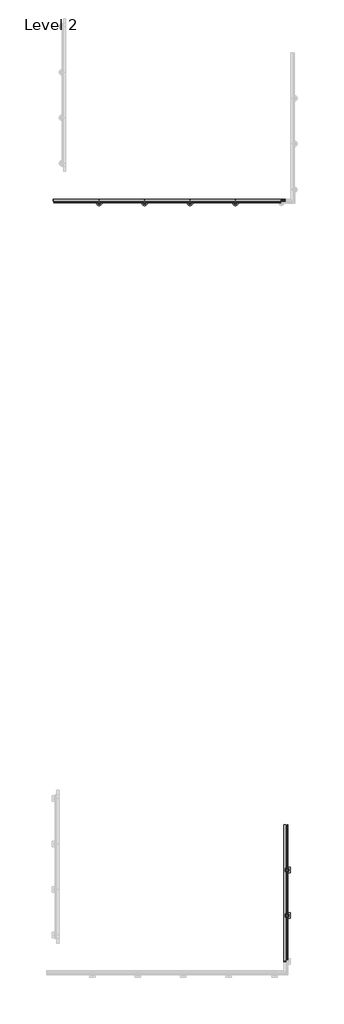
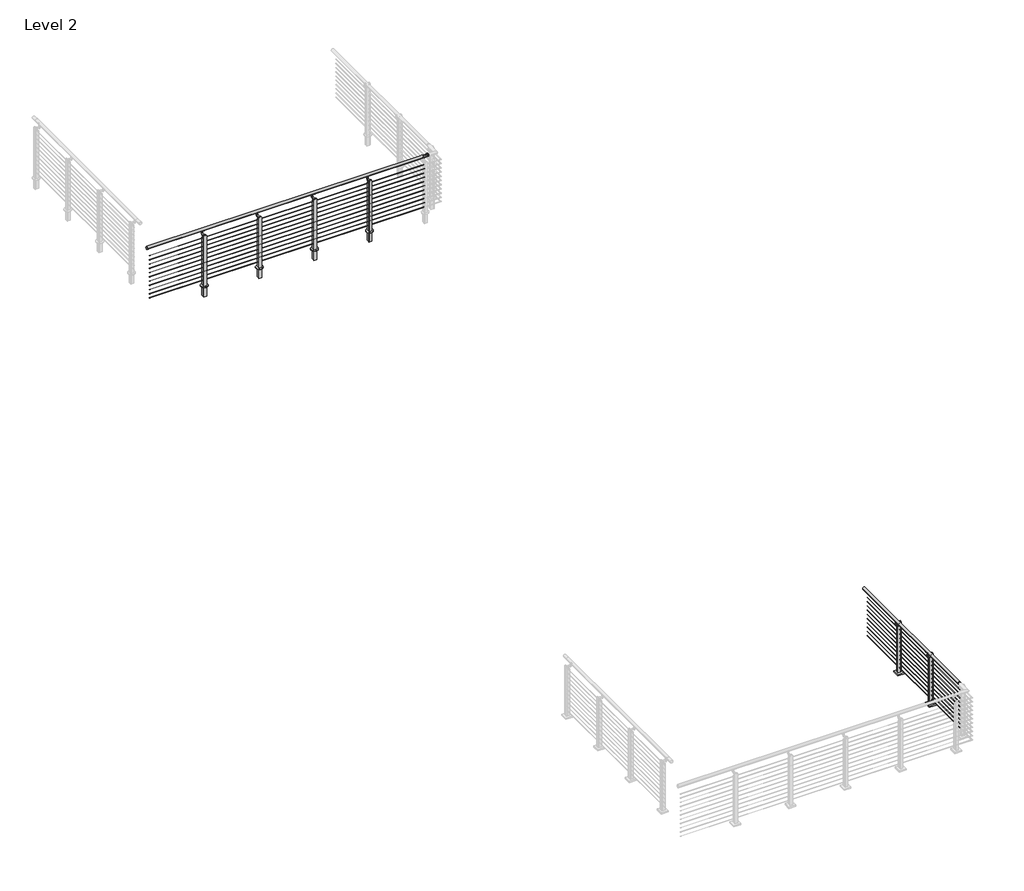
# One storey, part 7 of 12: 2 railings.
"""IFC4 building model written with IfcOpenShell, lengths in millimetres."""

from ifc_helpers import new_model, si_unit, point, frame, frame_2d, origin, place, context, project, spatial, polyline, circle_curve, trimmed, segment, composite_curve, outline, extrude, element, save
from ifc_brep_helpers import plane_surface, cylinder_surface, advanced_brep

model = new_model("IFC4")

# Units and contexts
model_context = context("Model", 3, world=origin())
ifc_project = project(units=[si_unit("LENGTHUNIT", "METRE", prefix="MILLI")], contexts=[model_context])

# Site, building, storey
site = spatial("IfcSite", under=ifc_project)
building = spatial("IfcBuilding", under=site)
storey = spatial("IfcBuildingStorey", under=building, Name="Level 2", Elevation=3048.0)

# Railings
placement = place(None, origin())
element("IfcRailing", 1, ObjectType="VIVA-TEE-Cable-Core Mount-Straight", at=placement, inside=storey, context=model_context, shape_type="SolidModel", body=[
    advanced_brep(
    [(-9121.1313409, -18186.2176165, 4102.1), (-9121.1313409, -18237.0176165, 4102.1), (-4041.1313409, -18237.0176165, 4102.1), (-4041.1313409, -18186.2176165, 4102.1), (-9130.8605344, -18237.0176165, 4102.1), (-9130.8605344, -18186.2176165, 4102.1), (-3939.5313409, -18237.0176165, 4102.1), (-3939.5313409, -18186.2176165, 4102.1)],
    [
        (0, 1, circle_curve(frame((-9121.1313409, -18211.6176165, 4102.1), z_axis=(1.0, 0.0, 0.0), x_axis=(0.0, 1.0, 0.0)), 25.4)),
        (1, 2),
        (2, 3, circle_curve(frame((-4041.1313409, -18211.6176165, 4102.1), z_axis=(-1.0, 0.0, 0.0), x_axis=(0.0, 1.0, 0.0)), 25.4)),
        (3, 0),
        (1, 0, circle_curve(frame((-9121.1313409, -18211.6176165, 4102.1), z_axis=(1.0, 0.0, 0.0), x_axis=(0.0, 1.0, 0.0)), 25.4)),
        (3, 2, circle_curve(frame((-4041.1313409, -18211.6176165, 4102.1), z_axis=(-1.0, 0.0, 0.0), x_axis=(0.0, 1.0, 0.0)), 25.4)),
        (4, 5, circle_curve(frame((-9130.8605344, -18211.6176165, 4102.1), z_axis=(-1.0, 0.0, 0.0), x_axis=(0.0, 1.0, 0.0)), 25.4)),
        (5, 4, circle_curve(frame((-9130.8605344, -18211.6176165, 4102.1), z_axis=(-1.0, 0.0, 0.0), x_axis=(0.0, 1.0, 0.0)), 25.4)),
        (4, 1),
        (0, 5),
        (6, 7, circle_curve(frame((-3939.5313409, -18211.6176165, 4102.1), z_axis=(1.0, 0.0, 0.0), x_axis=(0.0, 1.0, 0.0)), 25.4)),
        (7, 6, circle_curve(frame((-3939.5313409, -18211.6176165, 4102.1), z_axis=(1.0, 0.0, 0.0), x_axis=(0.0, 1.0, 0.0)), 25.4)),
        (2, 6),
        (7, 3),
    ],
    [
        cylinder_surface(frame((-9121.1313409, -18211.6176165, 4102.1), z_axis=(-1.0, 0.0, 0.0), x_axis=(0.0, 1.0, 0.0)), 25.4),
        plane_surface(frame((-9130.8605344, -18211.6176165, 4127.5), z_axis=(-1.0, 0.0, 0.0), x_axis=(0.0, 1.0, 0.0))),
        cylinder_surface(frame((-9130.8605344, -18211.6176165, 4102.1), z_axis=(-1.0, 0.0, 0.0), x_axis=(0.0, 1.0, 0.0)), 25.4),
        plane_surface(frame((-3939.5313409, -18211.6176165, 4127.5), z_axis=(1.0, 0.0, 0.0), x_axis=(0.0, 1.0, 0.0))),
        cylinder_surface(frame((-4041.1313409, -18211.6176165, 4102.1), z_axis=(-1.0, 0.0, 0.0), x_axis=(0.0, 1.0, 0.0)), 25.4),
    ],
    [
        (0, [[1, 2, 3, 4]]),
        (0, [[5, -4, 6, -2]]),
        (1, [[7, 8]]),
        (2, [[-7, 9, -1, 10]]),
        (2, [[-8, -10, -5, -9]]),
        (3, [[11, 12]]),
        (4, [[-3, 13, -12, 14]]),
        (4, [[-6, -14, -11, -13]]),
    ],
),
    extrude(outline(composite_curve([segment(trimmed(circle_curve(frame_2d((-18271.9426165, 3985.4124)), 2.3876), [point((-18269.5550165, 3985.4124))], [point((-18274.3302165, 3985.4124))], False, "CARTESIAN"), True, "CONTINUOUS"), segment(trimmed(circle_curve(frame_2d((-18271.9426165, 3985.4124)), 2.3876), [point((-18274.3302165, 3985.4124))], [point((-18269.5550165, 3985.4124))], False, "CARTESIAN"), True, "CONTINUOUS")], self_intersect=False)), frame((-9121.1313409, 0.0, 0.0), z_axis=(1.0, 0.0, 0.0), x_axis=(0.0, 1.0, 0.0)), (0.0, 0.0, 1.0), 5080.0),
    extrude(outline(composite_curve([segment(trimmed(circle_curve(frame_2d((-18271.9426165, 3902.8624)), 2.3876), [point((-18269.5550165, 3902.8624))], [point((-18274.3302165, 3902.8624))], False, "CARTESIAN"), True, "CONTINUOUS"), segment(trimmed(circle_curve(frame_2d((-18271.9426165, 3902.8624)), 2.3876), [point((-18274.3302165, 3902.8624))], [point((-18269.5550165, 3902.8624))], False, "CARTESIAN"), True, "CONTINUOUS")], self_intersect=False)), frame((-9121.1313409, 0.0, 0.0), z_axis=(1.0, 0.0, 0.0), x_axis=(0.0, 1.0, 0.0)), (0.0, 0.0, 1.0), 5080.0),
    extrude(outline(composite_curve([segment(trimmed(circle_curve(frame_2d((-18271.9426165, 3820.3124)), 2.3876), [point((-18269.5550165, 3820.3124))], [point((-18274.3302165, 3820.3124))], False, "CARTESIAN"), True, "CONTINUOUS"), segment(trimmed(circle_curve(frame_2d((-18271.9426165, 3820.3124)), 2.3876), [point((-18274.3302165, 3820.3124))], [point((-18269.5550165, 3820.3124))], False, "CARTESIAN"), True, "CONTINUOUS")], self_intersect=False)), frame((-9121.1313409, 0.0, 0.0), z_axis=(1.0, 0.0, 0.0), x_axis=(0.0, 1.0, 0.0)), (0.0, 0.0, 1.0), 5080.0),
    extrude(outline(composite_curve([segment(trimmed(circle_curve(frame_2d((-18271.9426165, 3737.7624)), 2.3876), [point((-18269.5550165, 3737.7624))], [point((-18274.3302165, 3737.7624))], False, "CARTESIAN"), True, "CONTINUOUS"), segment(trimmed(circle_curve(frame_2d((-18271.9426165, 3737.7624)), 2.3876), [point((-18274.3302165, 3737.7624))], [point((-18269.5550165, 3737.7624))], False, "CARTESIAN"), True, "CONTINUOUS")], self_intersect=False)), frame((-9121.1313409, 0.0, 0.0), z_axis=(1.0, 0.0, 0.0), x_axis=(0.0, 1.0, 0.0)), (0.0, 0.0, 1.0), 5080.0),
    extrude(outline(composite_curve([segment(trimmed(circle_curve(frame_2d((-18271.9426165, 3655.2124)), 2.3876), [point((-18269.5550165, 3655.2124))], [point((-18274.3302165, 3655.2124))], False, "CARTESIAN"), True, "CONTINUOUS"), segment(trimmed(circle_curve(frame_2d((-18271.9426165, 3655.2124)), 2.3876), [point((-18274.3302165, 3655.2124))], [point((-18269.5550165, 3655.2124))], False, "CARTESIAN"), True, "CONTINUOUS")], self_intersect=False)), frame((-9121.1313409, 0.0, 0.0), z_axis=(1.0, 0.0, 0.0), x_axis=(0.0, 1.0, 0.0)), (0.0, 0.0, 1.0), 5080.0),
    extrude(outline(composite_curve([segment(trimmed(circle_curve(frame_2d((-18271.9426165, 3572.6624)), 2.3876), [point((-18269.5550165, 3572.6624))], [point((-18274.3302165, 3572.6624))], False, "CARTESIAN"), True, "CONTINUOUS"), segment(trimmed(circle_curve(frame_2d((-18271.9426165, 3572.6624)), 2.3876), [point((-18274.3302165, 3572.6624))], [point((-18269.5550165, 3572.6624))], False, "CARTESIAN"), True, "CONTINUOUS")], self_intersect=False)), frame((-9121.1313409, 0.0, 0.0), z_axis=(1.0, 0.0, 0.0), x_axis=(0.0, 1.0, 0.0)), (0.0, 0.0, 1.0), 5080.0),
    extrude(outline(composite_curve([segment(trimmed(circle_curve(frame_2d((-18271.9426165, 3490.1124)), 2.3876), [point((-18269.5550165, 3490.1124))], [point((-18274.3302165, 3490.1124))], False, "CARTESIAN"), True, "CONTINUOUS"), segment(trimmed(circle_curve(frame_2d((-18271.9426165, 3490.1124)), 2.3876), [point((-18274.3302165, 3490.1124))], [point((-18269.5550165, 3490.1124))], False, "CARTESIAN"), True, "CONTINUOUS")], self_intersect=False)), frame((-9121.1313409, 0.0, 0.0), z_axis=(1.0, 0.0, 0.0), x_axis=(0.0, 1.0, 0.0)), (0.0, 0.0, 1.0), 5080.0),
    extrude(outline(composite_curve([segment(trimmed(circle_curve(frame_2d((-18271.9426165, 3407.5624)), 2.3876), [point((-18269.5550165, 3407.5624))], [point((-18274.3302165, 3407.5624))], False, "CARTESIAN"), True, "CONTINUOUS"), segment(trimmed(circle_curve(frame_2d((-18271.9426165, 3407.5624)), 2.3876), [point((-18274.3302165, 3407.5624))], [point((-18269.5550165, 3407.5624))], False, "CARTESIAN"), True, "CONTINUOUS")], self_intersect=False)), frame((-9121.1313409, 0.0, 0.0), z_axis=(1.0, 0.0, 0.0), x_axis=(0.0, 1.0, 0.0)), (0.0, 0.0, 1.0), 5080.0),
    extrude(outline(composite_curve([segment(trimmed(circle_curve(frame_2d((-18271.9426165, 3325.0124)), 2.3876), [point((-18269.5550165, 3325.0124))], [point((-18274.3302165, 3325.0124))], False, "CARTESIAN"), True, "CONTINUOUS"), segment(trimmed(circle_curve(frame_2d((-18271.9426165, 3325.0124)), 2.3876), [point((-18274.3302165, 3325.0124))], [point((-18269.5550165, 3325.0124))], False, "CARTESIAN"), True, "CONTINUOUS")], self_intersect=False)), frame((-9121.1313409, 0.0, 0.0), z_axis=(1.0, 0.0, 0.0), x_axis=(0.0, 1.0, 0.0)), (0.0, 0.0, 1.0), 5080.0),
    extrude(outline(composite_curve([segment(trimmed(circle_curve(frame_2d((-18271.9426165, 3242.4624)), 2.3876), [point((-18269.5550165, 3242.4624))], [point((-18274.3302165, 3242.4624))], False, "CARTESIAN"), True, "CONTINUOUS"), segment(trimmed(circle_curve(frame_2d((-18271.9426165, 3242.4624)), 2.3876), [point((-18274.3302165, 3242.4624))], [point((-18269.5550165, 3242.4624))], False, "CARTESIAN"), True, "CONTINUOUS")], self_intersect=False)), frame((-9121.1313409, 0.0, 0.0), z_axis=(1.0, 0.0, 0.0), x_axis=(0.0, 1.0, 0.0)), (0.0, 0.0, 1.0), 5080.0),
    extrude(outline(composite_curve([segment(trimmed(circle_curve(frame_2d((-18271.9426165, 3159.9124)), 2.3876), [point((-18269.5550165, 3159.9124))], [point((-18274.3302165, 3159.9124))], False, "CARTESIAN"), True, "CONTINUOUS"), segment(trimmed(circle_curve(frame_2d((-18271.9426165, 3159.9124)), 2.3876), [point((-18274.3302165, 3159.9124))], [point((-18269.5550165, 3159.9124))], False, "CARTESIAN"), True, "CONTINUOUS")], self_intersect=False)), frame((-9121.1313409, 0.0, 0.0), z_axis=(1.0, 0.0, 0.0), x_axis=(0.0, 1.0, 0.0)), (0.0, 0.0, 1.0), 5080.0),
    extrude(outline(composite_curve([segment(trimmed(circle_curve(frame_2d((0.0, 7.0)), 7.0), [point((0.0, 14.0))], [point((0.0, 0.0))], False, "CARTESIAN"), True, "CONTINUOUS"), segment(trimmed(circle_curve(frame_2d((0.0, 7.0)), 7.0), [point((0.0, 0.0))], [point((0.0, 14.0))], False, "CARTESIAN"), True, "CONTINUOUS")], self_intersect=False)), frame((-5057.057631, -18218.3274703, 3997.1832524), z_axis=(0.004253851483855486, 0.0, 0.9999909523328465), x_axis=(0.9999909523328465, 0.0, -0.004253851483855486)), (0.0, 0.0, 1.0), 75.97),
    extrude(outline(composite_curve([segment(trimmed(circle_curve(frame_2d((-18211.1860663, 4095.2025651)), 19.05), [point((-18224.7156545, 4081.7916463))], [point((-18197.6564781, 4081.7916463))], True, "CARTESIAN"), True, "CONTINUOUS"), segment(polyline([(-18197.6564781, 4081.7916463), (-18196.6300885, 4080.7742593)]), True, "CONTINUOUS"), segment(trimmed(circle_curve(frame_2d((-18197.6860663, 4079.7089374)), 1.5), [point((-18196.6300885, 4080.7742593))], [point((-18196.7006648, 4078.5780156))], False, "CARTESIAN"), True, "CONTINUOUS"), segment(trimmed(circle_curve(frame_2d((-18211.1860663, 4095.2025651)), 22.05), [point((-18196.7006648, 4078.5780156))], [point((-18225.6714678, 4078.5780156))], False, "CARTESIAN"), True, "CONTINUOUS"), segment(trimmed(circle_curve(frame_2d((-18224.6860663, 4079.7089374)), 1.5), [point((-18225.6714678, 4078.5780156))], [point((-18225.7420442, 4080.7742593))], False, "CARTESIAN"), True, "CONTINUOUS"), segment(polyline([(-18225.7420442, 4080.7742593), (-18224.7156545, 4081.7916463)]), True, "CONTINUOUS")], self_intersect=False)), frame((-5092.5961052, 0.0, 0.0), z_axis=(1.0, 0.0, 0.0), x_axis=(0.0, 1.0, 0.0)), (0.0, 0.0, 1.0), 74.5229187),
    extrude(outline(composite_curve([segment(trimmed(circle_curve(frame_2d((4024.1259188, -5056.8533005)), 12.5), [point((4024.1259188, -5069.3533005))], [point((4024.1259188, -5044.3533005))], False, "CARTESIAN"), True, "CONTINUOUS"), segment(trimmed(circle_curve(frame_2d((4024.1259188, -5056.8533005)), 12.5), [point((4024.1259188, -5044.3533005))], [point((4024.1259188, -5069.3533005))], False, "CARTESIAN"), True, "CONTINUOUS")], self_intersect=False)), frame((0.0, -18291.0934563, 0.0), z_axis=(0.0, 1.0, 0.0), x_axis=(0.0, 0.0, 1.0)), (0.0, 0.0, 1.0), 92.423),
    extrude(outline(composite_curve([segment(trimmed(circle_curve(frame_2d((-5056.7344659, -18271.9426165)), 63.5), [point((-5056.7344659, -18335.4426165))], [point((-5056.7344659, -18208.4426165))], False, "CARTESIAN"), True, "CONTINUOUS"), segment(trimmed(circle_curve(frame_2d((-5056.7344659, -18271.9426165)), 63.5), [point((-5056.7344659, -18208.4426165))], [point((-5056.7344659, -18335.4426165))], False, "CARTESIAN"), True, "CONTINUOUS")], self_intersect=False)), frame((0.0, 0.0, 3048.0), z_axis=(0.0, 0.0, 1.0), x_axis=(1.0, 0.0, 0.0)), (0.0, 0.0, 1.0), 6.35),
    extrude(outline(composite_curve([segment(trimmed(circle_curve(frame_2d((-18264.927165, 3972.2425)), 24.765), [point((-18264.927165, 3997.0075))], [point((-18240.162165, 3972.2425))], False, "CARTESIAN"), True, "CONTINUOUS"), segment(polyline([(-18240.162165, 3972.2425), (-18240.162165, 2851.15), (-18290.9926165, 2851.15), (-18290.9926165, 3997.0075), (-18264.927165, 3997.0075)]), True, "CONTINUOUS")], self_intersect=False)), frame((-5042.7309663, 0.0, 0.0), z_axis=(1.0, 0.0, 0.0), x_axis=(0.0, 1.0, 0.0)), (0.0, 0.0, 1.0), 9.525),
    extrude(outline(composite_curve([segment(polyline([(2851.15, -5031.3344659), (4027.17, -5031.3344659)]), True, "CONTINUOUS"), segment(trimmed(circle_curve(frame_2d((4027.17, -5056.7344659)), 25.4), [point((4027.17, -5031.3344659))], [point((4027.17, -5082.1344659))], False, "CARTESIAN"), True, "CONTINUOUS"), segment(polyline([(4027.17, -5082.1344659), (2851.15, -5082.1344659), (2851.15, -5031.3344659)]), True, "CONTINUOUS")], self_intersect=False)), frame((0.0, -18300.5176165, 0.0), z_axis=(0.0, 1.0, 0.0), x_axis=(0.0, 0.0, 1.0)), (0.0, 0.0, 1.0), 9.525),
    extrude(outline(composite_curve([segment(trimmed(circle_curve(frame_2d((-18264.927165, 3972.2425)), 24.765), [point((-18264.927165, 3997.0075))], [point((-18240.162165, 3972.2425))], False, "CARTESIAN"), True, "CONTINUOUS"), segment(polyline([(-18240.162165, 3972.2425), (-18240.162165, 2851.15), (-18290.9926165, 2851.15), (-18290.9926165, 3997.0075), (-18264.927165, 3997.0075)]), True, "CONTINUOUS")], self_intersect=False)), frame((-5080.2629655, 0.0, 0.0), z_axis=(1.0, 0.0, 0.0), x_axis=(0.0, 1.0, 0.0)), (0.0, 0.0, 1.0), 9.525),
    extrude(outline(composite_curve([segment(trimmed(circle_curve(frame_2d((0.0, 7.0)), 7.0), [point((0.0, 14.0))], [point((0.0, 0.0))], False, "CARTESIAN"), True, "CONTINUOUS"), segment(trimmed(circle_curve(frame_2d((0.0, 7.0)), 7.0), [point((0.0, 0.0))], [point((0.0, 14.0))], False, "CARTESIAN"), True, "CONTINUOUS")], self_intersect=False)), frame((-6073.057631, -18218.3274703, 3997.1832524), z_axis=(0.004253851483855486, 0.0, 0.9999909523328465), x_axis=(0.9999909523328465, 0.0, -0.004253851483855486)), (0.0, 0.0, 1.0), 75.97),
    extrude(outline(composite_curve([segment(trimmed(circle_curve(frame_2d((-18211.1860663, 4095.2025651)), 19.05), [point((-18224.7156545, 4081.7916463))], [point((-18197.6564781, 4081.7916463))], True, "CARTESIAN"), True, "CONTINUOUS"), segment(polyline([(-18197.6564781, 4081.7916463), (-18196.6300885, 4080.7742593)]), True, "CONTINUOUS"), segment(trimmed(circle_curve(frame_2d((-18197.6860663, 4079.7089374)), 1.5), [point((-18196.6300885, 4080.7742593))], [point((-18196.7006648, 4078.5780156))], False, "CARTESIAN"), True, "CONTINUOUS"), segment(trimmed(circle_curve(frame_2d((-18211.1860663, 4095.2025651)), 22.05), [point((-18196.7006648, 4078.5780156))], [point((-18225.6714678, 4078.5780156))], False, "CARTESIAN"), True, "CONTINUOUS"), segment(trimmed(circle_curve(frame_2d((-18224.6860663, 4079.7089374)), 1.5), [point((-18225.6714678, 4078.5780156))], [point((-18225.7420442, 4080.7742593))], False, "CARTESIAN"), True, "CONTINUOUS"), segment(polyline([(-18225.7420442, 4080.7742593), (-18224.7156545, 4081.7916463)]), True, "CONTINUOUS")], self_intersect=False)), frame((-6108.5961052, 0.0, 0.0), z_axis=(1.0, 0.0, 0.0), x_axis=(0.0, 1.0, 0.0)), (0.0, 0.0, 1.0), 74.5229187),
    extrude(outline(composite_curve([segment(trimmed(circle_curve(frame_2d((4024.1259188, -6072.8533005)), 12.5), [point((4024.1259188, -6085.3533005))], [point((4024.1259188, -6060.3533005))], False, "CARTESIAN"), True, "CONTINUOUS"), segment(trimmed(circle_curve(frame_2d((4024.1259188, -6072.8533005)), 12.5), [point((4024.1259188, -6060.3533005))], [point((4024.1259188, -6085.3533005))], False, "CARTESIAN"), True, "CONTINUOUS")], self_intersect=False)), frame((0.0, -18291.0934563, 0.0), z_axis=(0.0, 1.0, 0.0), x_axis=(0.0, 0.0, 1.0)), (0.0, 0.0, 1.0), 92.423),
    extrude(outline(composite_curve([segment(trimmed(circle_curve(frame_2d((-6072.7344659, -18271.9426165)), 63.5), [point((-6072.7344659, -18335.4426165))], [point((-6072.7344659, -18208.4426165))], False, "CARTESIAN"), True, "CONTINUOUS"), segment(trimmed(circle_curve(frame_2d((-6072.7344659, -18271.9426165)), 63.5), [point((-6072.7344659, -18208.4426165))], [point((-6072.7344659, -18335.4426165))], False, "CARTESIAN"), True, "CONTINUOUS")], self_intersect=False)), frame((0.0, 0.0, 3048.0), z_axis=(0.0, 0.0, 1.0), x_axis=(1.0, 0.0, 0.0)), (0.0, 0.0, 1.0), 6.35),
    extrude(outline(composite_curve([segment(trimmed(circle_curve(frame_2d((-18264.927165, 3972.2425)), 24.765), [point((-18264.927165, 3997.0075))], [point((-18240.162165, 3972.2425))], False, "CARTESIAN"), True, "CONTINUOUS"), segment(polyline([(-18240.162165, 3972.2425), (-18240.162165, 2851.15), (-18290.9926165, 2851.15), (-18290.9926165, 3997.0075), (-18264.927165, 3997.0075)]), True, "CONTINUOUS")], self_intersect=False)), frame((-6058.7309663, 0.0, 0.0), z_axis=(1.0, 0.0, 0.0), x_axis=(0.0, 1.0, 0.0)), (0.0, 0.0, 1.0), 9.525),
    extrude(outline(composite_curve([segment(polyline([(2851.15, -6047.3344659), (4027.17, -6047.3344659)]), True, "CONTINUOUS"), segment(trimmed(circle_curve(frame_2d((4027.17, -6072.7344659)), 25.4), [point((4027.17, -6047.3344659))], [point((4027.17, -6098.1344659))], False, "CARTESIAN"), True, "CONTINUOUS"), segment(polyline([(4027.17, -6098.1344659), (2851.15, -6098.1344659), (2851.15, -6047.3344659)]), True, "CONTINUOUS")], self_intersect=False)), frame((0.0, -18300.5176165, 0.0), z_axis=(0.0, 1.0, 0.0), x_axis=(0.0, 0.0, 1.0)), (0.0, 0.0, 1.0), 9.525),
    extrude(outline(composite_curve([segment(trimmed(circle_curve(frame_2d((-18264.927165, 3972.2425)), 24.765), [point((-18264.927165, 3997.0075))], [point((-18240.162165, 3972.2425))], False, "CARTESIAN"), True, "CONTINUOUS"), segment(polyline([(-18240.162165, 3972.2425), (-18240.162165, 2851.15), (-18290.9926165, 2851.15), (-18290.9926165, 3997.0075), (-18264.927165, 3997.0075)]), True, "CONTINUOUS")], self_intersect=False)), frame((-6096.2629655, 0.0, 0.0), z_axis=(1.0, 0.0, 0.0), x_axis=(0.0, 1.0, 0.0)), (0.0, 0.0, 1.0), 9.525),
    extrude(outline(composite_curve([segment(trimmed(circle_curve(frame_2d((0.0, 7.0)), 7.0), [point((0.0, 14.0))], [point((0.0, 0.0))], False, "CARTESIAN"), True, "CONTINUOUS"), segment(trimmed(circle_curve(frame_2d((0.0, 7.0)), 7.0), [point((0.0, 0.0))], [point((0.0, 14.0))], False, "CARTESIAN"), True, "CONTINUOUS")], self_intersect=False)), frame((-7089.057631, -18218.3274703, 3997.1832524), z_axis=(0.004253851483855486, 0.0, 0.9999909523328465), x_axis=(0.9999909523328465, 0.0, -0.004253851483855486)), (0.0, 0.0, 1.0), 75.97),
    extrude(outline(composite_curve([segment(trimmed(circle_curve(frame_2d((-18211.1860663, 4095.2025651)), 19.05), [point((-18224.7156545, 4081.7916463))], [point((-18197.6564781, 4081.7916463))], True, "CARTESIAN"), True, "CONTINUOUS"), segment(polyline([(-18197.6564781, 4081.7916463), (-18196.6300885, 4080.7742593)]), True, "CONTINUOUS"), segment(trimmed(circle_curve(frame_2d((-18197.6860663, 4079.7089374)), 1.5), [point((-18196.6300885, 4080.7742593))], [point((-18196.7006648, 4078.5780156))], False, "CARTESIAN"), True, "CONTINUOUS"), segment(trimmed(circle_curve(frame_2d((-18211.1860663, 4095.2025651)), 22.05), [point((-18196.7006648, 4078.5780156))], [point((-18225.6714678, 4078.5780156))], False, "CARTESIAN"), True, "CONTINUOUS"), segment(trimmed(circle_curve(frame_2d((-18224.6860663, 4079.7089374)), 1.5), [point((-18225.6714678, 4078.5780156))], [point((-18225.7420442, 4080.7742593))], False, "CARTESIAN"), True, "CONTINUOUS"), segment(polyline([(-18225.7420442, 4080.7742593), (-18224.7156545, 4081.7916463)]), True, "CONTINUOUS")], self_intersect=False)), frame((-7124.5961052, 0.0, 0.0), z_axis=(1.0, 0.0, 0.0), x_axis=(0.0, 1.0, 0.0)), (0.0, 0.0, 1.0), 74.5229187),
    extrude(outline(composite_curve([segment(trimmed(circle_curve(frame_2d((4024.1259188, -7088.8533005)), 12.5), [point((4024.1259188, -7101.3533005))], [point((4024.1259188, -7076.3533005))], False, "CARTESIAN"), True, "CONTINUOUS"), segment(trimmed(circle_curve(frame_2d((4024.1259188, -7088.8533005)), 12.5), [point((4024.1259188, -7076.3533005))], [point((4024.1259188, -7101.3533005))], False, "CARTESIAN"), True, "CONTINUOUS")], self_intersect=False)), frame((0.0, -18291.0934563, 0.0), z_axis=(0.0, 1.0, 0.0), x_axis=(0.0, 0.0, 1.0)), (0.0, 0.0, 1.0), 92.423),
    extrude(outline(composite_curve([segment(trimmed(circle_curve(frame_2d((-7088.7344659, -18271.9426165)), 63.5), [point((-7088.7344659, -18335.4426165))], [point((-7088.7344659, -18208.4426165))], False, "CARTESIAN"), True, "CONTINUOUS"), segment(trimmed(circle_curve(frame_2d((-7088.7344659, -18271.9426165)), 63.5), [point((-7088.7344659, -18208.4426165))], [point((-7088.7344659, -18335.4426165))], False, "CARTESIAN"), True, "CONTINUOUS")], self_intersect=False)), frame((0.0, 0.0, 3048.0), z_axis=(0.0, 0.0, 1.0), x_axis=(1.0, 0.0, 0.0)), (0.0, 0.0, 1.0), 6.35),
    extrude(outline(composite_curve([segment(trimmed(circle_curve(frame_2d((-18264.927165, 3972.2425)), 24.765), [point((-18264.927165, 3997.0075))], [point((-18240.162165, 3972.2425))], False, "CARTESIAN"), True, "CONTINUOUS"), segment(polyline([(-18240.162165, 3972.2425), (-18240.162165, 2851.15), (-18290.9926165, 2851.15), (-18290.9926165, 3997.0075), (-18264.927165, 3997.0075)]), True, "CONTINUOUS")], self_intersect=False)), frame((-7074.7309663, 0.0, 0.0), z_axis=(1.0, 0.0, 0.0), x_axis=(0.0, 1.0, 0.0)), (0.0, 0.0, 1.0), 9.525),
    extrude(outline(composite_curve([segment(polyline([(2851.15, -7063.3344659), (4027.17, -7063.3344659)]), True, "CONTINUOUS"), segment(trimmed(circle_curve(frame_2d((4027.17, -7088.7344659)), 25.4), [point((4027.17, -7063.3344659))], [point((4027.17, -7114.1344659))], False, "CARTESIAN"), True, "CONTINUOUS"), segment(polyline([(4027.17, -7114.1344659), (2851.15, -7114.1344659), (2851.15, -7063.3344659)]), True, "CONTINUOUS")], self_intersect=False)), frame((0.0, -18300.5176165, 0.0), z_axis=(0.0, 1.0, 0.0), x_axis=(0.0, 0.0, 1.0)), (0.0, 0.0, 1.0), 9.525),
    extrude(outline(composite_curve([segment(trimmed(circle_curve(frame_2d((-18264.927165, 3972.2425)), 24.765), [point((-18264.927165, 3997.0075))], [point((-18240.162165, 3972.2425))], False, "CARTESIAN"), True, "CONTINUOUS"), segment(polyline([(-18240.162165, 3972.2425), (-18240.162165, 2851.15), (-18290.9926165, 2851.15), (-18290.9926165, 3997.0075), (-18264.927165, 3997.0075)]), True, "CONTINUOUS")], self_intersect=False)), frame((-7112.2629655, 0.0, 0.0), z_axis=(1.0, 0.0, 0.0), x_axis=(0.0, 1.0, 0.0)), (0.0, 0.0, 1.0), 9.525),
    extrude(outline(composite_curve([segment(trimmed(circle_curve(frame_2d((0.0, 7.0)), 7.0), [point((0.0, 14.0))], [point((0.0, 0.0))], False, "CARTESIAN"), True, "CONTINUOUS"), segment(trimmed(circle_curve(frame_2d((0.0, 7.0)), 7.0), [point((0.0, 0.0))], [point((0.0, 14.0))], False, "CARTESIAN"), True, "CONTINUOUS")], self_intersect=False)), frame((-8105.057631, -18218.3274703, 3997.1832524), z_axis=(0.004253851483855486, 0.0, 0.9999909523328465), x_axis=(0.9999909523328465, 0.0, -0.004253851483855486)), (0.0, 0.0, 1.0), 75.97),
    extrude(outline(composite_curve([segment(trimmed(circle_curve(frame_2d((-18211.1860663, 4095.2025651)), 19.05), [point((-18224.7156545, 4081.7916463))], [point((-18197.6564781, 4081.7916463))], True, "CARTESIAN"), True, "CONTINUOUS"), segment(polyline([(-18197.6564781, 4081.7916463), (-18196.6300885, 4080.7742593)]), True, "CONTINUOUS"), segment(trimmed(circle_curve(frame_2d((-18197.6860663, 4079.7089374)), 1.5), [point((-18196.6300885, 4080.7742593))], [point((-18196.7006648, 4078.5780156))], False, "CARTESIAN"), True, "CONTINUOUS"), segment(trimmed(circle_curve(frame_2d((-18211.1860663, 4095.2025651)), 22.05), [point((-18196.7006648, 4078.5780156))], [point((-18225.6714678, 4078.5780156))], False, "CARTESIAN"), True, "CONTINUOUS"), segment(trimmed(circle_curve(frame_2d((-18224.6860663, 4079.7089374)), 1.5), [point((-18225.6714678, 4078.5780156))], [point((-18225.7420442, 4080.7742593))], False, "CARTESIAN"), True, "CONTINUOUS"), segment(polyline([(-18225.7420442, 4080.7742593), (-18224.7156545, 4081.7916463)]), True, "CONTINUOUS")], self_intersect=False)), frame((-8140.5961052, 0.0, 0.0), z_axis=(1.0, 0.0, 0.0), x_axis=(0.0, 1.0, 0.0)), (0.0, 0.0, 1.0), 74.5229187),
    extrude(outline(composite_curve([segment(trimmed(circle_curve(frame_2d((4024.1259188, -8104.8533005)), 12.5), [point((4024.1259188, -8117.3533005))], [point((4024.1259188, -8092.3533005))], False, "CARTESIAN"), True, "CONTINUOUS"), segment(trimmed(circle_curve(frame_2d((4024.1259188, -8104.8533005)), 12.5), [point((4024.1259188, -8092.3533005))], [point((4024.1259188, -8117.3533005))], False, "CARTESIAN"), True, "CONTINUOUS")], self_intersect=False)), frame((0.0, -18291.0934563, 0.0), z_axis=(0.0, 1.0, 0.0), x_axis=(0.0, 0.0, 1.0)), (0.0, 0.0, 1.0), 92.423),
    extrude(outline(composite_curve([segment(trimmed(circle_curve(frame_2d((-8104.7344659, -18271.9426165)), 63.5), [point((-8104.7344659, -18335.4426165))], [point((-8104.7344659, -18208.4426165))], False, "CARTESIAN"), True, "CONTINUOUS"), segment(trimmed(circle_curve(frame_2d((-8104.7344659, -18271.9426165)), 63.5), [point((-8104.7344659, -18208.4426165))], [point((-8104.7344659, -18335.4426165))], False, "CARTESIAN"), True, "CONTINUOUS")], self_intersect=False)), frame((0.0, 0.0, 3048.0), z_axis=(0.0, 0.0, 1.0), x_axis=(1.0, 0.0, 0.0)), (0.0, 0.0, 1.0), 6.35),
    extrude(outline(composite_curve([segment(trimmed(circle_curve(frame_2d((-18264.927165, 3972.2425)), 24.765), [point((-18264.927165, 3997.0075))], [point((-18240.162165, 3972.2425))], False, "CARTESIAN"), True, "CONTINUOUS"), segment(polyline([(-18240.162165, 3972.2425), (-18240.162165, 2851.15), (-18290.9926165, 2851.15), (-18290.9926165, 3997.0075), (-18264.927165, 3997.0075)]), True, "CONTINUOUS")], self_intersect=False)), frame((-8090.7309663, 0.0, 0.0), z_axis=(1.0, 0.0, 0.0), x_axis=(0.0, 1.0, 0.0)), (0.0, 0.0, 1.0), 9.525),
    extrude(outline(composite_curve([segment(polyline([(2851.15, -8079.3344659), (4027.17, -8079.3344659)]), True, "CONTINUOUS"), segment(trimmed(circle_curve(frame_2d((4027.17, -8104.7344659)), 25.4), [point((4027.17, -8079.3344659))], [point((4027.17, -8130.1344659))], False, "CARTESIAN"), True, "CONTINUOUS"), segment(polyline([(4027.17, -8130.1344659), (2851.15, -8130.1344659), (2851.15, -8079.3344659)]), True, "CONTINUOUS")], self_intersect=False)), frame((0.0, -18300.5176165, 0.0), z_axis=(0.0, 1.0, 0.0), x_axis=(0.0, 0.0, 1.0)), (0.0, 0.0, 1.0), 9.525),
    extrude(outline(composite_curve([segment(trimmed(circle_curve(frame_2d((-18264.927165, 3972.2425)), 24.765), [point((-18264.927165, 3997.0075))], [point((-18240.162165, 3972.2425))], False, "CARTESIAN"), True, "CONTINUOUS"), segment(polyline([(-18240.162165, 3972.2425), (-18240.162165, 2851.15), (-18290.9926165, 2851.15), (-18290.9926165, 3997.0075), (-18264.927165, 3997.0075)]), True, "CONTINUOUS")], self_intersect=False)), frame((-8128.2629655, 0.0, 0.0), z_axis=(1.0, 0.0, 0.0), x_axis=(0.0, 1.0, 0.0)), (0.0, 0.0, 1.0), 9.525),
])
element("IfcRailing", 2, ObjectType="VIVA-TEE-Cable-Floor Mount-Straight", at=placement, inside=storey, context=model_context, shape_type="SolidModel", body=[
    advanced_brep(
    [(-3926.6271474, -35212.481782, 4102.1), (-3977.4271474, -35212.481782, 4102.1), (-3926.6271474, -35202.7525885, 4102.1), (-3977.4271474, -35202.7525885, 4102.1), (-3926.6271474, -32154.7525885, 4102.1), (-3977.4271474, -32154.7525885, 4102.1)],
    [
        (0, 1, circle_curve(frame((-3952.0271474, -35212.481782, 4102.1), z_axis=(0.0, -1.0, 0.0), x_axis=(-1.0, 0.0, 0.0)), 25.4)),
        (1, 0, circle_curve(frame((-3952.0271474, -35212.481782, 4102.1), z_axis=(0.0, -1.0, 0.0), x_axis=(-1.0, 0.0, 0.0)), 25.4)),
        (0, 2),
        (2, 3, circle_curve(frame((-3952.0271474, -35202.7525885, 4102.1), z_axis=(0.0, -1.0, 0.0), x_axis=(-1.0, 0.0, 0.0)), 25.4)),
        (3, 1),
        (3, 2, circle_curve(frame((-3952.0271474, -35202.7525885, 4102.1), z_axis=(0.0, -1.0, 0.0), x_axis=(-1.0, 0.0, 0.0)), 25.4)),
        (4, 5, circle_curve(frame((-3952.0271474, -32154.7525885, 4102.1), z_axis=(0.0, 1.0, 0.0), x_axis=(-1.0, 0.0, 0.0)), 25.4)),
        (5, 4, circle_curve(frame((-3952.0271474, -32154.7525885, 4102.1), z_axis=(0.0, 1.0, 0.0), x_axis=(-1.0, 0.0, 0.0)), 25.4)),
        (2, 4),
        (5, 3),
    ],
    [
        plane_surface(frame((-3952.0271474, -35212.481782, 4127.5), z_axis=(0.0, -1.0, 0.0), x_axis=(0.0, 0.0, 1.0))),
        cylinder_surface(frame((-3952.0271474, -35212.481782, 4102.1), z_axis=(0.0, -1.0, 0.0), x_axis=(-1.0, 0.0, 0.0)), 25.4),
        plane_surface(frame((-3952.0271474, -32154.7525885, 4127.5), z_axis=(0.0, 1.0, 0.0), x_axis=(0.0, 0.0, 1.0))),
        cylinder_surface(frame((-3952.0271474, -35202.7525885, 4102.1), z_axis=(0.0, -1.0, 0.0), x_axis=(-1.0, 0.0, 0.0)), 25.4),
    ],
    [
        (0, [[1, 2]]),
        (1, [[-1, 3, 4, 5]]),
        (1, [[-2, -5, 6, -3]]),
        (2, [[7, 8]]),
        (3, [[-4, 9, -8, 10]]),
        (3, [[-6, -10, -7, -9]]),
    ],
),
    extrude(outline(composite_curve([segment(trimmed(circle_curve(frame_2d((3985.4124, -3891.7021474)), 2.3876), [point((3985.4124, -3894.0897474))], [point((3985.4124, -3889.3145474))], False, "CARTESIAN"), True, "CONTINUOUS"), segment(trimmed(circle_curve(frame_2d((3985.4124, -3891.7021474)), 2.3876), [point((3985.4124, -3889.3145474))], [point((3985.4124, -3894.0897474))], False, "CARTESIAN"), True, "CONTINUOUS")], self_intersect=False)), frame((0.0, -35202.7525885, 0.0), z_axis=(0.0, 1.0, 0.0), x_axis=(0.0, 0.0, 1.0)), (0.0, 0.0, 1.0), 3048.0),
    extrude(outline(composite_curve([segment(trimmed(circle_curve(frame_2d((3902.8624, -3891.7021474)), 2.3876), [point((3902.8624, -3894.0897474))], [point((3902.8624, -3889.3145474))], False, "CARTESIAN"), True, "CONTINUOUS"), segment(trimmed(circle_curve(frame_2d((3902.8624, -3891.7021474)), 2.3876), [point((3902.8624, -3889.3145474))], [point((3902.8624, -3894.0897474))], False, "CARTESIAN"), True, "CONTINUOUS")], self_intersect=False)), frame((0.0, -35202.7525885, 0.0), z_axis=(0.0, 1.0, 0.0), x_axis=(0.0, 0.0, 1.0)), (0.0, 0.0, 1.0), 3048.0),
    extrude(outline(composite_curve([segment(trimmed(circle_curve(frame_2d((3820.3124, -3891.7021474)), 2.3876), [point((3820.3124, -3894.0897474))], [point((3820.3124, -3889.3145474))], False, "CARTESIAN"), True, "CONTINUOUS"), segment(trimmed(circle_curve(frame_2d((3820.3124, -3891.7021474)), 2.3876), [point((3820.3124, -3889.3145474))], [point((3820.3124, -3894.0897474))], False, "CARTESIAN"), True, "CONTINUOUS")], self_intersect=False)), frame((0.0, -35202.7525885, 0.0), z_axis=(0.0, 1.0, 0.0), x_axis=(0.0, 0.0, 1.0)), (0.0, 0.0, 1.0), 3048.0),
    extrude(outline(composite_curve([segment(trimmed(circle_curve(frame_2d((3737.7624, -3891.7021474)), 2.3876), [point((3737.7624, -3894.0897474))], [point((3737.7624, -3889.3145474))], False, "CARTESIAN"), True, "CONTINUOUS"), segment(trimmed(circle_curve(frame_2d((3737.7624, -3891.7021474)), 2.3876), [point((3737.7624, -3889.3145474))], [point((3737.7624, -3894.0897474))], False, "CARTESIAN"), True, "CONTINUOUS")], self_intersect=False)), frame((0.0, -35202.7525885, 0.0), z_axis=(0.0, 1.0, 0.0), x_axis=(0.0, 0.0, 1.0)), (0.0, 0.0, 1.0), 3048.0),
    extrude(outline(composite_curve([segment(trimmed(circle_curve(frame_2d((3655.2124, -3891.7021474)), 2.3876), [point((3655.2124, -3894.0897474))], [point((3655.2124, -3889.3145474))], False, "CARTESIAN"), True, "CONTINUOUS"), segment(trimmed(circle_curve(frame_2d((3655.2124, -3891.7021474)), 2.3876), [point((3655.2124, -3889.3145474))], [point((3655.2124, -3894.0897474))], False, "CARTESIAN"), True, "CONTINUOUS")], self_intersect=False)), frame((0.0, -35202.7525885, 0.0), z_axis=(0.0, 1.0, 0.0), x_axis=(0.0, 0.0, 1.0)), (0.0, 0.0, 1.0), 3048.0),
    extrude(outline(composite_curve([segment(trimmed(circle_curve(frame_2d((3572.6624, -3891.7021474)), 2.3876), [point((3572.6624, -3894.0897474))], [point((3572.6624, -3889.3145474))], False, "CARTESIAN"), True, "CONTINUOUS"), segment(trimmed(circle_curve(frame_2d((3572.6624, -3891.7021474)), 2.3876), [point((3572.6624, -3889.3145474))], [point((3572.6624, -3894.0897474))], False, "CARTESIAN"), True, "CONTINUOUS")], self_intersect=False)), frame((0.0, -35202.7525885, 0.0), z_axis=(0.0, 1.0, 0.0), x_axis=(0.0, 0.0, 1.0)), (0.0, 0.0, 1.0), 3048.0),
    extrude(outline(composite_curve([segment(trimmed(circle_curve(frame_2d((3490.1124, -3891.7021474)), 2.3876), [point((3490.1124, -3894.0897474))], [point((3490.1124, -3889.3145474))], False, "CARTESIAN"), True, "CONTINUOUS"), segment(trimmed(circle_curve(frame_2d((3490.1124, -3891.7021474)), 2.3876), [point((3490.1124, -3889.3145474))], [point((3490.1124, -3894.0897474))], False, "CARTESIAN"), True, "CONTINUOUS")], self_intersect=False)), frame((0.0, -35202.7525885, 0.0), z_axis=(0.0, 1.0, 0.0), x_axis=(0.0, 0.0, 1.0)), (0.0, 0.0, 1.0), 3048.0),
    extrude(outline(composite_curve([segment(trimmed(circle_curve(frame_2d((3407.5624, -3891.7021474)), 2.3876), [point((3407.5624, -3894.0897474))], [point((3407.5624, -3889.3145474))], False, "CARTESIAN"), True, "CONTINUOUS"), segment(trimmed(circle_curve(frame_2d((3407.5624, -3891.7021474)), 2.3876), [point((3407.5624, -3889.3145474))], [point((3407.5624, -3894.0897474))], False, "CARTESIAN"), True, "CONTINUOUS")], self_intersect=False)), frame((0.0, -35202.7525885, 0.0), z_axis=(0.0, 1.0, 0.0), x_axis=(0.0, 0.0, 1.0)), (0.0, 0.0, 1.0), 3048.0),
    extrude(outline(composite_curve([segment(trimmed(circle_curve(frame_2d((3325.0124, -3891.7021474)), 2.3876), [point((3325.0124, -3894.0897474))], [point((3325.0124, -3889.3145474))], False, "CARTESIAN"), True, "CONTINUOUS"), segment(trimmed(circle_curve(frame_2d((3325.0124, -3891.7021474)), 2.3876), [point((3325.0124, -3889.3145474))], [point((3325.0124, -3894.0897474))], False, "CARTESIAN"), True, "CONTINUOUS")], self_intersect=False)), frame((0.0, -35202.7525885, 0.0), z_axis=(0.0, 1.0, 0.0), x_axis=(0.0, 0.0, 1.0)), (0.0, 0.0, 1.0), 3048.0),
    extrude(outline(composite_curve([segment(trimmed(circle_curve(frame_2d((3242.4624, -3891.7021474)), 2.3876), [point((3242.4624, -3894.0897474))], [point((3242.4624, -3889.3145474))], False, "CARTESIAN"), True, "CONTINUOUS"), segment(trimmed(circle_curve(frame_2d((3242.4624, -3891.7021474)), 2.3876), [point((3242.4624, -3889.3145474))], [point((3242.4624, -3894.0897474))], False, "CARTESIAN"), True, "CONTINUOUS")], self_intersect=False)), frame((0.0, -35202.7525885, 0.0), z_axis=(0.0, 1.0, 0.0), x_axis=(0.0, 0.0, 1.0)), (0.0, 0.0, 1.0), 3048.0),
    extrude(outline(composite_curve([segment(trimmed(circle_curve(frame_2d((3159.9124, -3891.7021474)), 2.3876), [point((3159.9124, -3894.0897474))], [point((3159.9124, -3889.3145474))], False, "CARTESIAN"), True, "CONTINUOUS"), segment(trimmed(circle_curve(frame_2d((3159.9124, -3891.7021474)), 2.3876), [point((3159.9124, -3889.3145474))], [point((3159.9124, -3894.0897474))], False, "CARTESIAN"), True, "CONTINUOUS")], self_intersect=False)), frame((0.0, -35202.7525885, 0.0), z_axis=(0.0, 1.0, 0.0), x_axis=(0.0, 0.0, 1.0)), (0.0, 0.0, 1.0), 3048.0),
    extrude(outline(composite_curve([segment(trimmed(circle_curve(frame_2d((0.0, 7.0)), 7.0), [point((0.0, 14.0))], [point((0.0, 0.0))], False, "CARTESIAN"), True, "CONTINUOUS"), segment(trimmed(circle_curve(frame_2d((0.0, 7.0)), 7.0), [point((0.0, 0.0))], [point((0.0, 14.0))], False, "CARTESIAN"), True, "CONTINUOUS")], self_intersect=False)), frame((-3945.3172937, -33170.6788786, 3997.1832524), z_axis=(0.0, 0.004253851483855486, 0.9999909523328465), x_axis=(0.0, 0.9999909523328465, -0.004253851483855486)), (0.0, 0.0, 1.0), 75.97),
    extrude(outline(composite_curve([segment(trimmed(circle_curve(frame_2d((4095.2025651, -3952.4586977)), 19.05), [point((4081.7916463, -3938.9291094))], [point((4081.7916463, -3965.9882859))], True, "CARTESIAN"), True, "CONTINUOUS"), segment(polyline([(4081.7916463, -3965.9882859), (4080.7742593, -3967.0146755)]), True, "CONTINUOUS"), segment(trimmed(circle_curve(frame_2d((4079.7089374, -3965.9586977)), 1.5), [point((4080.7742593, -3967.0146755))], [point((4078.5780156, -3966.9440991))], False, "CARTESIAN"), True, "CONTINUOUS"), segment(trimmed(circle_curve(frame_2d((4095.2025651, -3952.4586977)), 22.05), [point((4078.5780156, -3966.9440991))], [point((4078.5780156, -3937.9732962))], False, "CARTESIAN"), True, "CONTINUOUS"), segment(trimmed(circle_curve(frame_2d((4079.7089374, -3938.9586977)), 1.5), [point((4078.5780156, -3937.9732962))], [point((4080.7742593, -3937.9027198))], False, "CARTESIAN"), True, "CONTINUOUS"), segment(polyline([(4080.7742593, -3937.9027198), (4081.7916463, -3938.9291094)]), True, "CONTINUOUS")], self_intersect=False)), frame((0.0, -33206.2173528, 0.0), z_axis=(0.0, 1.0, 0.0), x_axis=(0.0, 0.0, 1.0)), (0.0, 0.0, 1.0), 74.5229187),
    extrude(outline(composite_curve([segment(trimmed(circle_curve(frame_2d((-33170.4745482, 4024.1259188)), 12.5), [point((-33182.9745482, 4024.1259188))], [point((-33157.9745482, 4024.1259188))], False, "CARTESIAN"), True, "CONTINUOUS"), segment(trimmed(circle_curve(frame_2d((-33170.4745482, 4024.1259188)), 12.5), [point((-33157.9745482, 4024.1259188))], [point((-33182.9745482, 4024.1259188))], False, "CARTESIAN"), True, "CONTINUOUS")], self_intersect=False)), frame((-3964.9743077, 0.0, 0.0), z_axis=(1.0, 0.0, 0.0), x_axis=(0.0, 1.0, 0.0)), (0.0, 0.0, 1.0), 92.423),
    extrude(outline(polyline([(-3955.2021474, -33106.8557135), (-3828.2021474, -33106.8557135), (-3828.2021474, -33233.8557135), (-3955.2021474, -33233.8557135), (-3955.2021474, -33106.8557135)])), frame((0.0, 0.0, 3048.0), z_axis=(0.0, 0.0, 1.0), x_axis=(1.0, 0.0, 0.0)), (0.0, 0.0, 1.0), 25.4),
    extrude(outline(composite_curve([segment(trimmed(circle_curve(frame_2d((3972.2425, -3898.717599)), 24.765), [point((3997.0075, -3898.717599))], [point((3972.2425, -3923.482599))], False, "CARTESIAN"), True, "CONTINUOUS"), segment(polyline([(3972.2425, -3923.482599), (3073.4, -3923.482599), (3073.4, -3872.6521474), (3997.0075, -3872.6521474), (3997.0075, -3898.717599)]), True, "CONTINUOUS")], self_intersect=False)), frame((0.0, -33156.3522139, 0.0), z_axis=(0.0, 1.0, 0.0), x_axis=(0.0, 0.0, 1.0)), (0.0, 0.0, 1.0), 9.525),
    extrude(outline(composite_curve([segment(polyline([(-33144.9557135, 3073.4), (-33195.7557135, 3073.4), (-33195.7557135, 4027.17)]), True, "CONTINUOUS"), segment(trimmed(circle_curve(frame_2d((-33170.3557135, 4027.17)), 25.4), [point((-33195.7557135, 4027.17))], [point((-33144.9557135, 4027.17))], False, "CARTESIAN"), True, "CONTINUOUS"), segment(polyline([(-33144.9557135, 4027.17), (-33144.9557135, 3073.4)]), True, "CONTINUOUS")], self_intersect=False)), frame((-3872.6521474, 0.0, 0.0), z_axis=(1.0, 0.0, 0.0), x_axis=(0.0, 1.0, 0.0)), (0.0, 0.0, 1.0), 9.525),
    extrude(outline(composite_curve([segment(trimmed(circle_curve(frame_2d((3972.2425, -3898.717599)), 24.765), [point((3997.0075, -3898.717599))], [point((3972.2425, -3923.482599))], False, "CARTESIAN"), True, "CONTINUOUS"), segment(polyline([(3972.2425, -3923.482599), (3073.4, -3923.482599), (3073.4, -3872.6521474), (3997.0075, -3872.6521474), (3997.0075, -3898.717599)]), True, "CONTINUOUS")], self_intersect=False)), frame((0.0, -33193.8842131, 0.0), z_axis=(0.0, 1.0, 0.0), x_axis=(0.0, 0.0, 1.0)), (0.0, 0.0, 1.0), 9.525),
    extrude(outline(composite_curve([segment(trimmed(circle_curve(frame_2d((0.0, 7.0)), 7.0), [point((0.0, 14.0))], [point((0.0, 0.0))], False, "CARTESIAN"), True, "CONTINUOUS"), segment(trimmed(circle_curve(frame_2d((0.0, 7.0)), 7.0), [point((0.0, 0.0))], [point((0.0, 14.0))], False, "CARTESIAN"), True, "CONTINUOUS")], self_intersect=False)), frame((-3945.3172937, -34186.6788786, 3997.1832524), z_axis=(0.0, 0.004253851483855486, 0.9999909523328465), x_axis=(0.0, 0.9999909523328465, -0.004253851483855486)), (0.0, 0.0, 1.0), 75.97),
    extrude(outline(composite_curve([segment(trimmed(circle_curve(frame_2d((4095.2025651, -3952.4586977)), 19.05), [point((4081.7916463, -3938.9291094))], [point((4081.7916463, -3965.9882859))], True, "CARTESIAN"), True, "CONTINUOUS"), segment(polyline([(4081.7916463, -3965.9882859), (4080.7742593, -3967.0146755)]), True, "CONTINUOUS"), segment(trimmed(circle_curve(frame_2d((4079.7089374, -3965.9586977)), 1.5), [point((4080.7742593, -3967.0146755))], [point((4078.5780156, -3966.9440991))], False, "CARTESIAN"), True, "CONTINUOUS"), segment(trimmed(circle_curve(frame_2d((4095.2025651, -3952.4586977)), 22.05), [point((4078.5780156, -3966.9440991))], [point((4078.5780156, -3937.9732962))], False, "CARTESIAN"), True, "CONTINUOUS"), segment(trimmed(circle_curve(frame_2d((4079.7089374, -3938.9586977)), 1.5), [point((4078.5780156, -3937.9732962))], [point((4080.7742593, -3937.9027198))], False, "CARTESIAN"), True, "CONTINUOUS"), segment(polyline([(4080.7742593, -3937.9027198), (4081.7916463, -3938.9291094)]), True, "CONTINUOUS")], self_intersect=False)), frame((0.0, -34222.2173528, 0.0), z_axis=(0.0, 1.0, 0.0), x_axis=(0.0, 0.0, 1.0)), (0.0, 0.0, 1.0), 74.5229187),
    extrude(outline(composite_curve([segment(trimmed(circle_curve(frame_2d((-34186.4745482, 4024.1259188)), 12.5), [point((-34198.9745482, 4024.1259188))], [point((-34173.9745482, 4024.1259188))], False, "CARTESIAN"), True, "CONTINUOUS"), segment(trimmed(circle_curve(frame_2d((-34186.4745482, 4024.1259188)), 12.5), [point((-34173.9745482, 4024.1259188))], [point((-34198.9745482, 4024.1259188))], False, "CARTESIAN"), True, "CONTINUOUS")], self_intersect=False)), frame((-3964.9743077, 0.0, 0.0), z_axis=(1.0, 0.0, 0.0), x_axis=(0.0, 1.0, 0.0)), (0.0, 0.0, 1.0), 92.423),
    extrude(outline(polyline([(-3955.2021474, -34122.8557135), (-3828.2021474, -34122.8557135), (-3828.2021474, -34249.8557135), (-3955.2021474, -34249.8557135), (-3955.2021474, -34122.8557135)])), frame((0.0, 0.0, 3048.0), z_axis=(0.0, 0.0, 1.0), x_axis=(1.0, 0.0, 0.0)), (0.0, 0.0, 1.0), 25.4),
    extrude(outline(composite_curve([segment(trimmed(circle_curve(frame_2d((3972.2425, -3898.717599)), 24.765), [point((3997.0075, -3898.717599))], [point((3972.2425, -3923.482599))], False, "CARTESIAN"), True, "CONTINUOUS"), segment(polyline([(3972.2425, -3923.482599), (3073.4, -3923.482599), (3073.4, -3872.6521474), (3997.0075, -3872.6521474), (3997.0075, -3898.717599)]), True, "CONTINUOUS")], self_intersect=False)), frame((0.0, -34172.3522139, 0.0), z_axis=(0.0, 1.0, 0.0), x_axis=(0.0, 0.0, 1.0)), (0.0, 0.0, 1.0), 9.525),
    extrude(outline(composite_curve([segment(polyline([(-34160.9557135, 3073.4), (-34211.7557135, 3073.4), (-34211.7557135, 4027.17)]), True, "CONTINUOUS"), segment(trimmed(circle_curve(frame_2d((-34186.3557135, 4027.17)), 25.4), [point((-34211.7557135, 4027.17))], [point((-34160.9557135, 4027.17))], False, "CARTESIAN"), True, "CONTINUOUS"), segment(polyline([(-34160.9557135, 4027.17), (-34160.9557135, 3073.4)]), True, "CONTINUOUS")], self_intersect=False)), frame((-3872.6521474, 0.0, 0.0), z_axis=(1.0, 0.0, 0.0), x_axis=(0.0, 1.0, 0.0)), (0.0, 0.0, 1.0), 9.525),
    extrude(outline(composite_curve([segment(trimmed(circle_curve(frame_2d((3972.2425, -3898.717599)), 24.765), [point((3997.0075, -3898.717599))], [point((3972.2425, -3923.482599))], False, "CARTESIAN"), True, "CONTINUOUS"), segment(polyline([(3972.2425, -3923.482599), (3073.4, -3923.482599), (3073.4, -3872.6521474), (3997.0075, -3872.6521474), (3997.0075, -3898.717599)]), True, "CONTINUOUS")], self_intersect=False)), frame((0.0, -34209.8842131, 0.0), z_axis=(0.0, 1.0, 0.0), x_axis=(0.0, 0.0, 1.0)), (0.0, 0.0, 1.0), 9.525),
])

save(model, "model.ifc")
